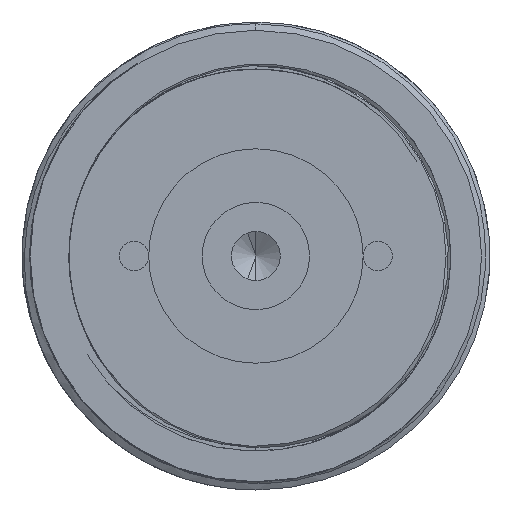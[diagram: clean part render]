
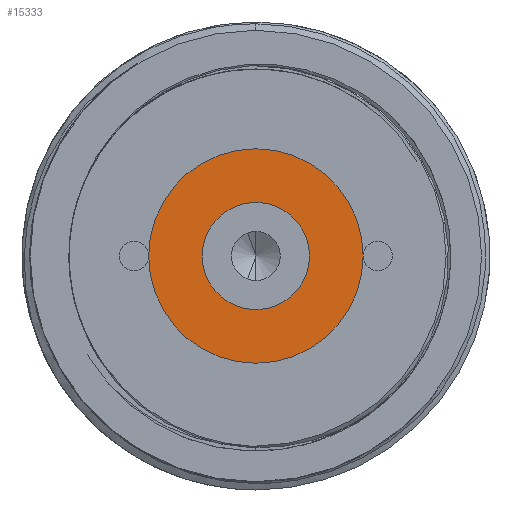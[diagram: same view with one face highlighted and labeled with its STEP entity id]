
A CAD part, front view. The second image highlights one B-rep face of the part: STEP entity #15333.
In plain terms, the highlighted planar face has unit normal (0, -1, 0).
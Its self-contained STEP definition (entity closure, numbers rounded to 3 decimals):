
#35 = ORIENTED_EDGE ( 'NONE', *, *, #4019, .T. ) ;
#213 = CARTESIAN_POINT ( 'NONE',  ( 0., 0., 0. ) ) ;
#258 = CARTESIAN_POINT ( 'NONE',  ( 0., 0., 11. ) ) ;
#277 = DIRECTION ( 'NONE',  ( 0., 1., 0. ) ) ;
#863 = CARTESIAN_POINT ( 'NONE',  ( 0., 0., 5.5 ) ) ;
#1156 = FACE_BOUND ( 'NONE', #11271, .T. ) ;
#1605 = EDGE_CURVE ( 'NONE', #16889, #11414, #10542, .T. ) ;
#1646 = CIRCLE ( 'NONE', #14815, 5.5 ) ;
#1740 = DIRECTION ( 'NONE',  ( 0., 0., -1. ) ) ;
#2050 = ORIENTED_EDGE ( 'NONE', *, *, #3959, .T. ) ;
#3152 = CARTESIAN_POINT ( 'NONE',  ( 0., 0., 0. ) ) ;
#3959 = EDGE_CURVE ( 'NONE', #12676, #8331, #9017, .T. ) ;
#4019 = EDGE_CURVE ( 'NONE', #8331, #12676, #4918, .T. ) ;
#4709 = DIRECTION ( 'NONE',  ( 0., 0., -1. ) ) ;
#4918 = CIRCLE ( 'NONE', #15581, 11. ) ;
#6239 = CARTESIAN_POINT ( 'NONE',  ( 0., 0., 0. ) ) ;
#6483 = CARTESIAN_POINT ( 'NONE',  ( 0., 0., -11. ) ) ;
#7799 = DIRECTION ( 'NONE',  ( 0., 0., -1. ) ) ;
#8331 = VERTEX_POINT ( 'NONE', #258 ) ;
#9017 = CIRCLE ( 'NONE', #11406, 11. ) ;
#9491 = CARTESIAN_POINT ( 'NONE',  ( 0., 0., 0. ) ) ;
#9531 = PLANE ( 'NONE',  #20034 ) ;
#9554 = DIRECTION ( 'NONE',  ( 0., -1., 0. ) ) ;
#9621 = DIRECTION ( 'NONE',  ( 0., 0., -1. ) ) ;
#10511 = ORIENTED_EDGE ( 'NONE', *, *, #1605, .F. ) ;
#10542 = CIRCLE ( 'NONE', #11646, 5.5 ) ;
#11028 = DIRECTION ( 'NONE',  ( 0., -1., 0. ) ) ;
#11090 = DIRECTION ( 'NONE',  ( 0., 0., 1. ) ) ;
#11271 = EDGE_LOOP ( 'NONE', ( #14789, #10511 ) ) ;
#11406 = AXIS2_PLACEMENT_3D ( 'NONE', #3152, #13992, #4709 ) ;
#11414 = VERTEX_POINT ( 'NONE', #16338 ) ;
#11646 = AXIS2_PLACEMENT_3D ( 'NONE', #9491, #9554, #9621 ) ;
#12676 = VERTEX_POINT ( 'NONE', #6483 ) ;
#12894 = EDGE_CURVE ( 'NONE', #11414, #16889, #1646, .T. ) ;
#13992 = DIRECTION ( 'NONE',  ( 0., -1., 0. ) ) ;
#14789 = ORIENTED_EDGE ( 'NONE', *, *, #12894, .F. ) ;
#14815 = AXIS2_PLACEMENT_3D ( 'NONE', #6239, #17116, #7799 ) ;
#15333 = ADVANCED_FACE ( 'NONE', ( #1156, #17183 ), #9531, .F. ) ;
#15545 = CARTESIAN_POINT ( 'NONE',  ( 0., 0., 0. ) ) ;
#15581 = AXIS2_PLACEMENT_3D ( 'NONE', #213, #11028, #1740 ) ;
#16338 = CARTESIAN_POINT ( 'NONE',  ( 0., 0., -5.5 ) ) ;
#16889 = VERTEX_POINT ( 'NONE', #863 ) ;
#17116 = DIRECTION ( 'NONE',  ( 0., -1., 0. ) ) ;
#17118 = EDGE_LOOP ( 'NONE', ( #2050, #35 ) ) ;
#17183 = FACE_OUTER_BOUND ( 'NONE', #17118, .T. ) ;
#20034 = AXIS2_PLACEMENT_3D ( 'NONE', #15545, #277, #11090 ) ;
